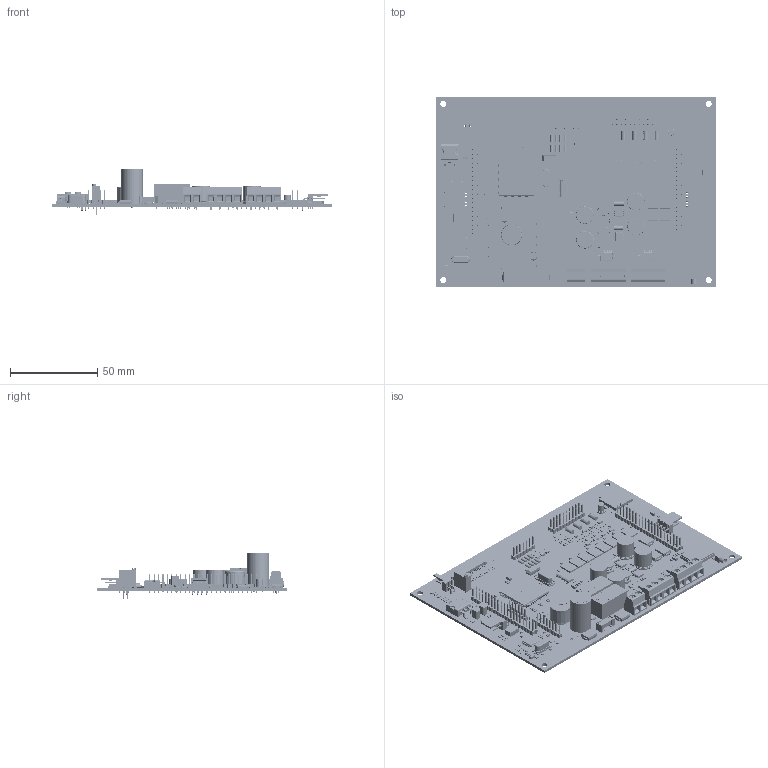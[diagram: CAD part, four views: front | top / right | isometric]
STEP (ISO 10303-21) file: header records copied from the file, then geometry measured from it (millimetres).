
FILE_DESCRIPTION(('Open CASCADE Model'),'2;1');
FILE_NAME('Open CASCADE Shape Model','2013-03-28T15:37:15',('Author'),( 'Open CASCADE'),'Open CASCADE STEP processor 6.2','Open CASCADE 6.2' ,'Unknown');
FILE_SCHEMA(('AUTOMOTIVE_DESIGN { 1 0 10303 214 1 1 1 1 }'));
Length unit declared in the file: millimetre
Products named in the file (419): PCB; Board; Q15X; TO-92B; VIN; 1729018; mkdsn_1.5-2; R129; RESC1206X71N; R128; R127; R126; R125; R124; Q13X; P5; SIL10P; ANT; MMCX-J-P-X-RA-TH1; BUZ1; buzzer; C1; 1037576640; Cylinder; 1037576760; 1037576880; C2; capacitor_size_G; C3; C4; C5; CAP_0603; User_Library-CAP_0603_CAP_0603_Lead_1; User_Library-CAP_0603_CAP_0603_Body_1; C6; C7; C8; C9; C10; Tant-cap_a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
Assembly tree (808 placements, depth 4):
  PCB
    Board
    Q15X
      TO-92B
    VIN
      1729018
        mkdsn_1.5-2
    R129
      RESC1206X71N
    R128
      RESC1206X71N
    R127
      RESC1206X71N
    R126
      RESC1206X71N
    R125
      RESC1206X71N
    R124
      RESC1206X71N
    Q13X
      TO-92B
    P5
      SIL10P  x2
    ANT
      MMCX-J-P-X-RA-TH1
    BUZ1
      buzzer
    C1
      1037576640  x2
        Cylinder
      1037576760
        Cylinder
      1037576880
        Cylinder
    C2
      capacitor_size_G
    C3
      capacitor_size_G
    C4
      capacitor_size_G
    C5
      CAP_0603
        User_Library-CAP_0603_CAP_0603_Lead_1  x2
        User_Library-CAP_0603_CAP_0603_Body_1
    C6
      CAP_0603
        User_Library-CAP_0603_CAP_0603_Lead_1  x2
        User_Library-CAP_0603_CAP_0603_Body_1
    C7
      capacitor_size_G
    C8
      CAP_0603
        User_Library-CAP_0603_CAP_0603_Lead_1  x2
        User_Library-CAP_0603_CAP_0603_Body_1
    C9
      CAP_0603
        User_Library-CAP_0603_CAP_0603_Lead_1  x2
        User_Library-CAP_0603_CAP_0603_Body_1
    C10
      Tant-cap_a
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Bounding box: 160.02 x 109 x 26.5 mm (x, y, z)
Volume: 47916.6 mm3; surface area: 65724.6 mm2
Topology: 666 solids, 2752 shells, 24232 faces, 63291 edges, 43095 vertices
Faces by surface type: plane 16861, bspline 4642, cylinder 2264, sphere 308, extrusion 68, torus 59, cone 30
Full cylindrical faces by diameter (mm): 0.6 x8, 0.7 x8, 0.8 x10, 0.9 x4, 1 x141, 1.2 x10, 1.4 x10, 3.5 x4, 10 x1, 12.6 x1
Entity records: 717000 total; most frequent: CARTESIAN_POINT 239444, DIRECTION 57003, ORIENTED_EDGE 43360, PCURVE 43360, DEFINITIONAL_REPRESENTATION 43360, VECTOR 37384, LINE 37350, B_SPLINE_CURVE_WITH_KNOTS 25826
